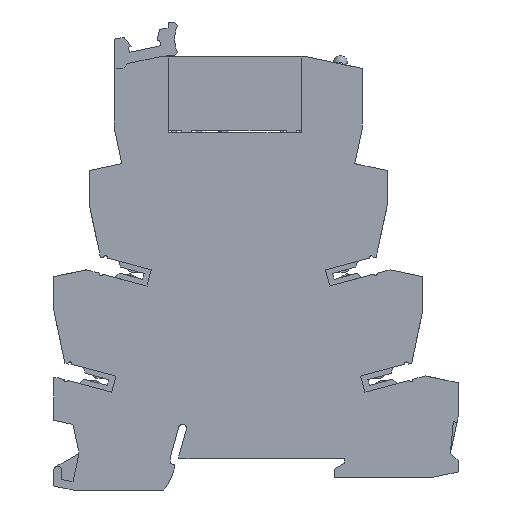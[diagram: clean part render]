
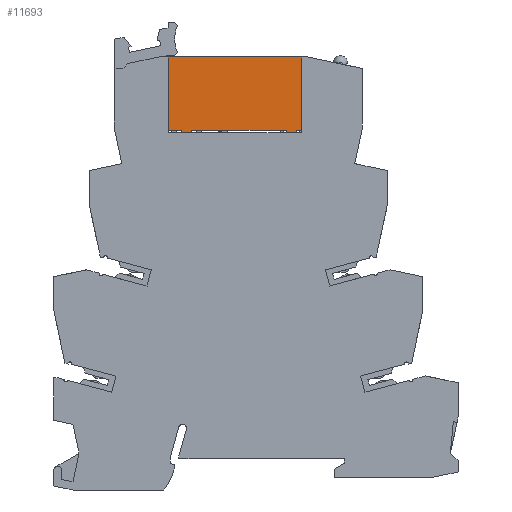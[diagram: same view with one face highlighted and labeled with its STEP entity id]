
A CAD part, left-side view. The second image highlights one B-rep face of the part: STEP entity #11693.
In plain terms, the highlighted planar face has unit normal (-1, 0, 0).
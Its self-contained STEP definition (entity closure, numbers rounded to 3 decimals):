
#6735=CARTESIAN_POINT('',(0.55,52.78,70.7));
#6736=VERTEX_POINT('',#6735);
#6743=CARTESIAN_POINT('',(0.55,54.78,70.7));
#6744=VERTEX_POINT('',#6743);
#6745=CARTESIAN_POINT('',(0.55,52.78,70.7));
#6746=DIRECTION('',(-0.,1.,-0.));
#6747=VECTOR('',#6746,2.);
#6748=LINE('',#6745,#6747);
#6749=EDGE_CURVE('',#6736,#6744,#6748,.T.);
#6801=CARTESIAN_POINT('',(0.55,33.99,70.7));
#6802=VERTEX_POINT('',#6801);
#6819=CARTESIAN_POINT('',(0.55,31.99,70.7));
#6820=VERTEX_POINT('',#6819);
#6827=CARTESIAN_POINT('',(0.55,31.99,70.7));
#6828=DIRECTION('',(-0.,1.,-0.));
#6829=VECTOR('',#6828,2.);
#6830=LINE('',#6827,#6829);
#6831=EDGE_CURVE('',#6820,#6802,#6830,.T.);
#11558=CARTESIAN_POINT('',(0.55,31.99,71.2));
#11559=VERTEX_POINT('',#11558);
#11566=CARTESIAN_POINT('',(0.55,31.99,70.7));
#11567=DIRECTION('',(0.,0.,1.));
#11568=VECTOR('',#11567,0.5);
#11569=LINE('',#11566,#11568);
#11570=EDGE_CURVE('',#6820,#11559,#11569,.T.);
#11615=CARTESIAN_POINT('',(0.55,21.029,83.968));
#11616=DIRECTION('',(1.,-0.,-0.));
#11617=DIRECTION('',(0.,0.,1.));
#11618=AXIS2_PLACEMENT_3D('',#11615,#11616,#11617);
#11619=PLANE('',#11618);
#11620=CARTESIAN_POINT('',(0.55,30.2,71.2));
#11621=VERTEX_POINT('',#11620);
#11622=CARTESIAN_POINT('',(0.55,30.2,85.7));
#11623=VERTEX_POINT('',#11622);
#11624=CARTESIAN_POINT('',(0.55,30.2,71.2));
#11625=DIRECTION('',(0.,0.,1.));
#11626=VECTOR('',#11625,14.5);
#11627=LINE('',#11624,#11626);
#11628=EDGE_CURVE('',#11621,#11623,#11627,.T.);
#11629=ORIENTED_EDGE('',*,*,#11628,.T.);
#11630=CARTESIAN_POINT('',(0.55,58.2,85.7));
#11631=VERTEX_POINT('',#11630);
#11632=CARTESIAN_POINT('',(0.55,58.2,85.7));
#11633=DIRECTION('',(-0.,-1.,0.));
#11634=VECTOR('',#11633,28.);
#11635=LINE('',#11632,#11634);
#11636=EDGE_CURVE('',#11631,#11623,#11635,.T.);
#11637=ORIENTED_EDGE('',*,*,#11636,.F.);
#11638=CARTESIAN_POINT('',(0.55,58.2,71.2));
#11639=VERTEX_POINT('',#11638);
#11640=CARTESIAN_POINT('',(0.55,58.2,71.2));
#11641=DIRECTION('',(0.,0.,1.));
#11642=VECTOR('',#11641,14.5);
#11643=LINE('',#11640,#11642);
#11644=EDGE_CURVE('',#11639,#11631,#11643,.T.);
#11645=ORIENTED_EDGE('',*,*,#11644,.F.);
#11646=CARTESIAN_POINT('',(0.55,54.78,71.2));
#11647=VERTEX_POINT('',#11646);
#11648=CARTESIAN_POINT('',(0.55,54.78,71.2));
#11649=DIRECTION('',(0.,1.,-0.));
#11650=VECTOR('',#11649,3.42);
#11651=LINE('',#11648,#11650);
#11652=EDGE_CURVE('',#11647,#11639,#11651,.T.);
#11653=ORIENTED_EDGE('',*,*,#11652,.F.);
#11654=CARTESIAN_POINT('',(0.55,54.78,71.2));
#11655=DIRECTION('',(-0.,-0.,-1.));
#11656=VECTOR('',#11655,0.5);
#11657=LINE('',#11654,#11656);
#11658=EDGE_CURVE('',#11647,#6744,#11657,.T.);
#11659=ORIENTED_EDGE('',*,*,#11658,.T.);
#11660=ORIENTED_EDGE('',*,*,#6749,.F.);
#11661=CARTESIAN_POINT('',(0.55,52.78,71.2));
#11662=VERTEX_POINT('',#11661);
#11663=CARTESIAN_POINT('',(0.55,52.78,70.7));
#11664=DIRECTION('',(0.,0.,1.));
#11665=VECTOR('',#11664,0.5);
#11666=LINE('',#11663,#11665);
#11667=EDGE_CURVE('',#6736,#11662,#11666,.T.);
#11668=ORIENTED_EDGE('',*,*,#11667,.T.);
#11669=CARTESIAN_POINT('',(0.55,33.99,71.2));
#11670=VERTEX_POINT('',#11669);
#11671=CARTESIAN_POINT('',(0.55,33.99,71.2));
#11672=DIRECTION('',(0.,1.,-0.));
#11673=VECTOR('',#11672,18.79);
#11674=LINE('',#11671,#11673);
#11675=EDGE_CURVE('',#11670,#11662,#11674,.T.);
#11676=ORIENTED_EDGE('',*,*,#11675,.F.);
#11677=CARTESIAN_POINT('',(0.55,33.99,71.2));
#11678=DIRECTION('',(-0.,-0.,-1.));
#11679=VECTOR('',#11678,0.5);
#11680=LINE('',#11677,#11679);
#11681=EDGE_CURVE('',#11670,#6802,#11680,.T.);
#11682=ORIENTED_EDGE('',*,*,#11681,.T.);
#11683=ORIENTED_EDGE('',*,*,#6831,.F.);
#11684=ORIENTED_EDGE('',*,*,#11570,.T.);
#11685=CARTESIAN_POINT('',(0.55,30.2,71.2));
#11686=DIRECTION('',(0.,1.,-0.));
#11687=VECTOR('',#11686,1.79);
#11688=LINE('',#11685,#11687);
#11689=EDGE_CURVE('',#11621,#11559,#11688,.T.);
#11690=ORIENTED_EDGE('',*,*,#11689,.F.);
#11691=EDGE_LOOP('',(#11629,#11637,#11645,#11653,#11659,#11660,#11668,#11676,#11682,#11683,#11684,#11690));
#11692=FACE_BOUND('',#11691,.T.);
#11693=ADVANCED_FACE('',(#11692),#11619,.F.);
